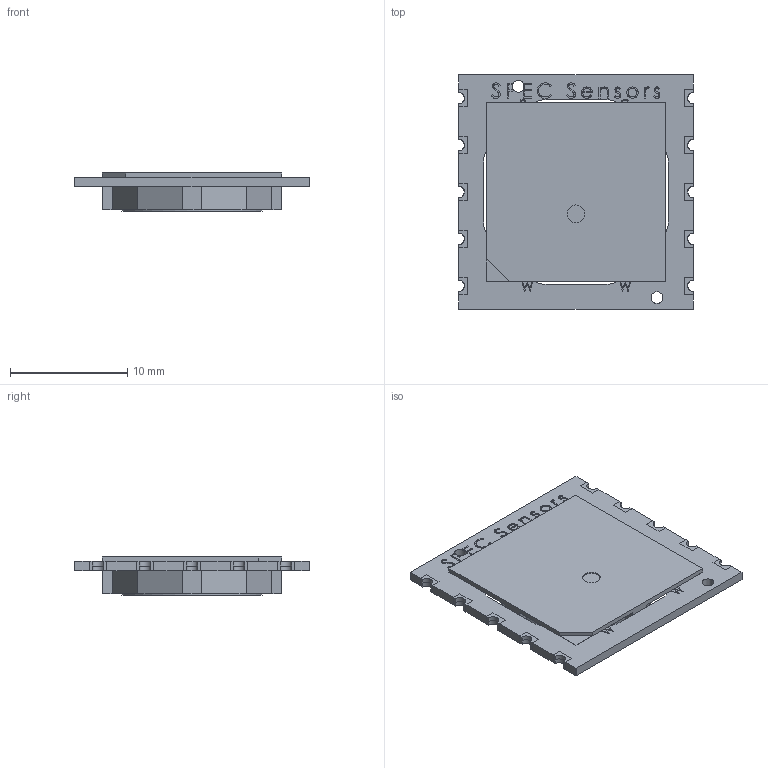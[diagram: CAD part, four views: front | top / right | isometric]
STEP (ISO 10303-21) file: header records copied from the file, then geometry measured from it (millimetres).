
FILE_DESCRIPTION (( 'STEP AP214' ), '1' );
FILE_NAME ('110-407 STEP.STEP', '2023-06-20T22:03:30', ( '' ), ( '' ), 'SwSTEP 2.0', 'SolidWorks 2017', '' );
FILE_SCHEMA (( 'AUTOMOTIVE_DESIGN' ));
Length unit declared in the file: millimetre
Products named in the file (4): 100-402 STEP; Zebra Barcode; 981-014; 110-407 STEP
Assembly tree (3 placements, depth 2):
  110-407 STEP
    100-402 STEP
    Zebra Barcode
    981-014
Bounding box: 20.01 x 20 x 3.25 mm (x, y, z)
Volume: 633.6 mm3; surface area: 1533.5 mm2
Topology: 32 solids, 32 shells, 581 faces, 1549 edges, 1038 vertices
Faces by surface type: plane 361, bspline 123, cylinder 97
Full cylindrical faces by diameter (mm): 0.35 x1, 0.75 x24, 1 x10, 1.5 x1, 12 x1
Entity records: 27465 total; most frequent: CARTESIAN_POINT 9284, ORIENTED_EDGE 2992, DIRECTION 2372, EDGE_CURVE 1496, LINE 1056, VECTOR 1056, VERTEX_POINT 1022, EDGE_LOOP 700
